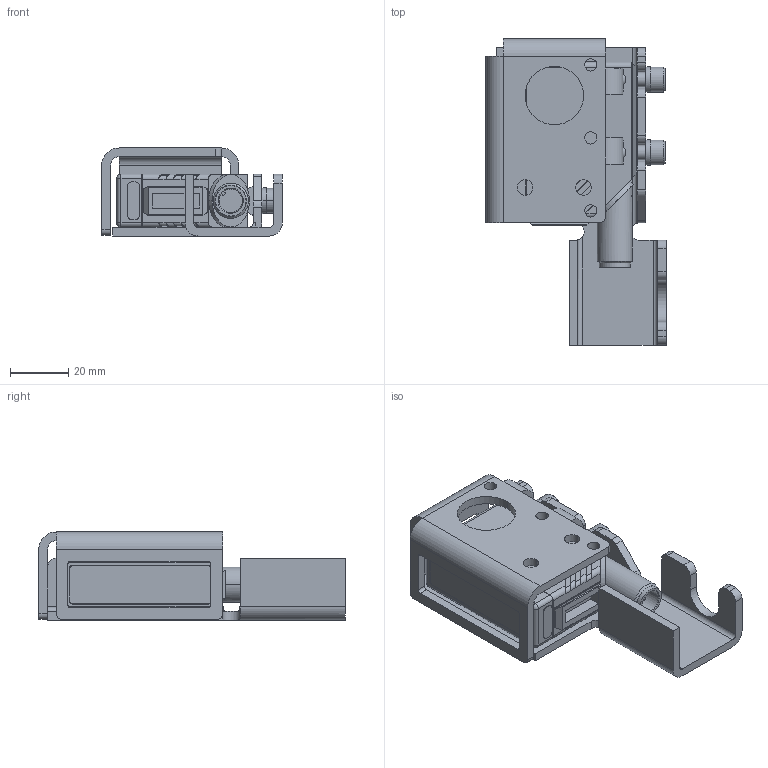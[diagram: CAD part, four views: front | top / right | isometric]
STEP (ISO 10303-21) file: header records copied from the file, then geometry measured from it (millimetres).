
FILE_DESCRIPTION( ( '' ), '1' );
FILE_NAME( '//expscmdclustefs.cadenas.external/client_exchange/iodir/jobs/output/wkb39661644_no0/STEP/o5e51a_2_03_56fa68aab0d912ba39a93ed9979b71de.stp', '2011-12-01T08:59:20', ( '' ), ( '' ), ' ', ' ', ' ' );
FILE_SCHEMA( ( 'CONFIG_CONTROL_DESIGN' ) );
Length unit declared in the file: millimetre
Products named in the file (2): 1; 2
Bounding box: 61.85 x 105 x 30.2 mm (x, y, z)
Volume: 75211.3 mm3; surface area: 31918.8 mm2
Topology: 2 solids, 2 shells, 426 faces, 1134 edges, 730 vertices
Faces by surface type: plane 221, cylinder 167, cone 33, sphere 5
Entity records: 13484 total; most frequent: CARTESIAN_POINT 2408, DIRECTION 2376, ORIENTED_EDGE 2260, EDGE_CURVE 1130, AXIS2_PLACEMENT_3D 828, VERTEX_POINT 730, LINE 720, VECTOR 720
